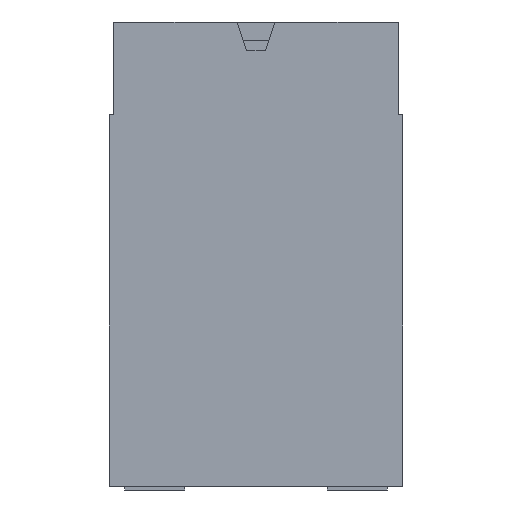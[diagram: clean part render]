
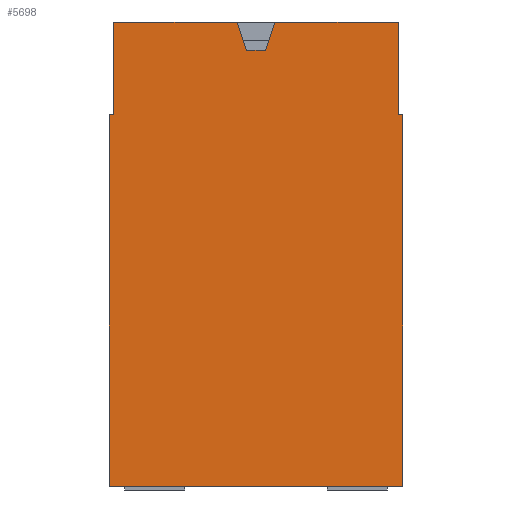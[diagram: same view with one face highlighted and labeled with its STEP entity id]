
A CAD part, front view. The second image highlights one B-rep face of the part: STEP entity #5698.
In plain terms, the highlighted planar face has unit normal (0, -1, 0).
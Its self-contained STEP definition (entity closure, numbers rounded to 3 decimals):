
#2547=DIRECTION('',(1.,0.,0.));
#2548=VECTOR('',#2547,15.7);
#2549=CARTESIAN_POINT('',(-7.85,-11.87,-2.2));
#2550=LINE('',#2549,#2548);
#2671=DIRECTION('',(0.,0.,-1.));
#2672=VECTOR('',#2671,4.95);
#2673=CARTESIAN_POINT('',(7.6,-11.87,22.6));
#2674=LINE('',#2673,#2672);
#2675=DIRECTION('',(1.,0.,0.));
#2676=VECTOR('',#2675,0.25);
#2677=CARTESIAN_POINT('',(7.6,-11.87,17.65));
#2678=LINE('',#2677,#2676);
#2679=DIRECTION('',(0.,0.,-1.));
#2680=VECTOR('',#2679,19.85);
#2681=CARTESIAN_POINT('',(7.85,-11.87,17.65));
#2682=LINE('',#2681,#2680);
#2683=DIRECTION('',(0.,0.,1.));
#2684=VECTOR('',#2683,19.85);
#2685=CARTESIAN_POINT('',(-7.85,-11.87,-2.2));
#2686=LINE('',#2685,#2684);
#2687=DIRECTION('',(1.,0.,0.));
#2688=VECTOR('',#2687,0.25);
#2689=CARTESIAN_POINT('',(-7.85,-11.87,17.65));
#2690=LINE('',#2689,#2688);
#2691=DIRECTION('',(0.,0.,1.));
#2692=VECTOR('',#2691,4.95);
#2693=CARTESIAN_POINT('',(-7.6,-11.87,17.65));
#2694=LINE('',#2693,#2692);
#2695=DIRECTION('',(1.,0.,0.));
#2696=VECTOR('',#2695,6.6);
#2697=CARTESIAN_POINT('',(-7.6,-11.87,22.6));
#2698=LINE('',#2697,#2696);
#2699=DIRECTION('',(0.316,0.,-0.949));
#2700=VECTOR('',#2699,1.581);
#2701=CARTESIAN_POINT('',(-1.,-11.87,22.6));
#2702=LINE('',#2701,#2700);
#2703=DIRECTION('',(1.,0.,0.));
#2704=VECTOR('',#2703,1.);
#2705=CARTESIAN_POINT('',(-0.5,-11.87,21.1));
#2706=LINE('',#2705,#2704);
#2707=DIRECTION('',(0.316,0.,0.949));
#2708=VECTOR('',#2707,1.581);
#2709=CARTESIAN_POINT('',(0.5,-11.87,21.1));
#2710=LINE('',#2709,#2708);
#2711=DIRECTION('',(1.,0.,0.));
#2712=VECTOR('',#2711,6.6);
#2713=CARTESIAN_POINT('',(1.,-11.87,22.6));
#2714=LINE('',#2713,#2712);
#4853=CARTESIAN_POINT('',(-7.85,-11.87,-2.2));
#4854=CARTESIAN_POINT('',(7.85,-11.87,-2.2));
#4855=VERTEX_POINT('',#4853);
#4856=VERTEX_POINT('',#4854);
#4913=CARTESIAN_POINT('',(7.6,-11.87,22.6));
#4914=CARTESIAN_POINT('',(7.6,-11.87,17.65));
#4915=VERTEX_POINT('',#4913);
#4916=VERTEX_POINT('',#4914);
#4917=CARTESIAN_POINT('',(7.85,-11.87,17.65));
#4918=VERTEX_POINT('',#4917);
#4919=CARTESIAN_POINT('',(-7.85,-11.87,17.65));
#4920=VERTEX_POINT('',#4919);
#4921=CARTESIAN_POINT('',(-7.6,-11.87,17.65));
#4922=VERTEX_POINT('',#4921);
#4923=CARTESIAN_POINT('',(-7.6,-11.87,22.6));
#4924=VERTEX_POINT('',#4923);
#4925=CARTESIAN_POINT('',(-1.,-11.87,22.6));
#4926=VERTEX_POINT('',#4925);
#4927=CARTESIAN_POINT('',(-0.5,-11.87,21.1));
#4928=VERTEX_POINT('',#4927);
#4929=CARTESIAN_POINT('',(0.5,-11.87,21.1));
#4930=VERTEX_POINT('',#4929);
#4931=CARTESIAN_POINT('',(1.,-11.87,22.6));
#4932=VERTEX_POINT('',#4931);
#5668=CARTESIAN_POINT('',(0.,-11.87,10.2));
#5669=DIRECTION('',(0.,1.,0.));
#5670=DIRECTION('',(-1.,0.,0.));
#5671=AXIS2_PLACEMENT_3D('',#5668,#5669,#5670);
#5672=PLANE('',#5671);
#5674=ORIENTED_EDGE('',*,*,#5673,.T.);
#5676=ORIENTED_EDGE('',*,*,#5675,.T.);
#5678=ORIENTED_EDGE('',*,*,#5677,.T.);
#5679=ORIENTED_EDGE('',*,*,#5596,.F.);
#5681=ORIENTED_EDGE('',*,*,#5680,.T.);
#5683=ORIENTED_EDGE('',*,*,#5682,.T.);
#5685=ORIENTED_EDGE('',*,*,#5684,.T.);
#5687=ORIENTED_EDGE('',*,*,#5686,.T.);
#5689=ORIENTED_EDGE('',*,*,#5688,.T.);
#5691=ORIENTED_EDGE('',*,*,#5690,.T.);
#5693=ORIENTED_EDGE('',*,*,#5692,.T.);
#5695=ORIENTED_EDGE('',*,*,#5694,.T.);
#5696=EDGE_LOOP('',(#5674,#5676,#5678,#5679,#5681,#5683,#5685,#5687,#5689,#5691,
#5693,#5695));
#5697=FACE_OUTER_BOUND('',#5696,.F.);
#5698=ADVANCED_FACE('',(#5697),#5672,.F.);
#5596=EDGE_CURVE('',#4855,#4856,#2550,.T.);
#5673=EDGE_CURVE('',#4915,#4916,#2674,.T.);
#5675=EDGE_CURVE('',#4916,#4918,#2678,.T.);
#5677=EDGE_CURVE('',#4918,#4856,#2682,.T.);
#5680=EDGE_CURVE('',#4855,#4920,#2686,.T.);
#5682=EDGE_CURVE('',#4920,#4922,#2690,.T.);
#5684=EDGE_CURVE('',#4922,#4924,#2694,.T.);
#5686=EDGE_CURVE('',#4924,#4926,#2698,.T.);
#5688=EDGE_CURVE('',#4926,#4928,#2702,.T.);
#5690=EDGE_CURVE('',#4928,#4930,#2706,.T.);
#5692=EDGE_CURVE('',#4930,#4932,#2710,.T.);
#5694=EDGE_CURVE('',#4932,#4915,#2714,.T.);
